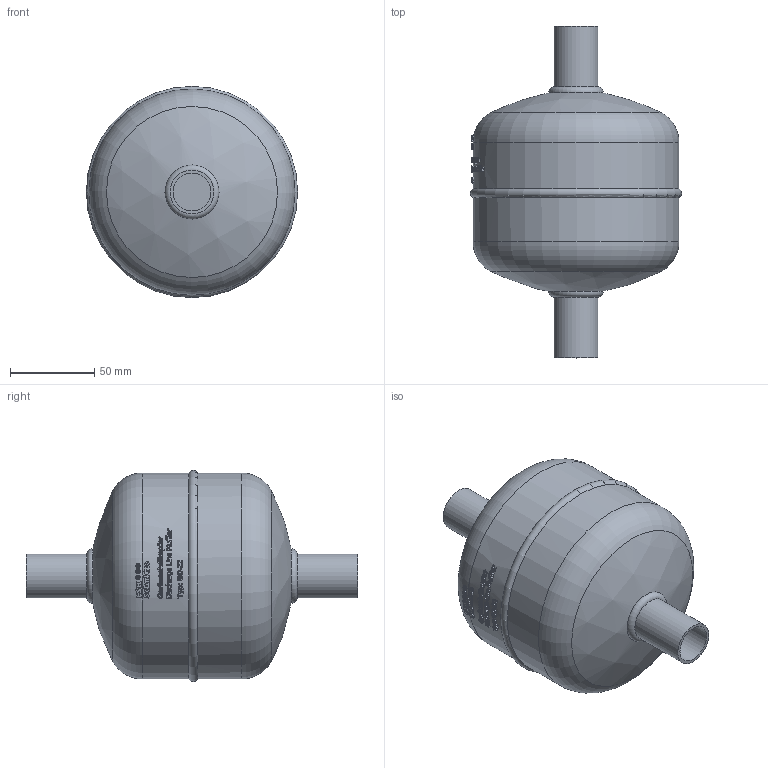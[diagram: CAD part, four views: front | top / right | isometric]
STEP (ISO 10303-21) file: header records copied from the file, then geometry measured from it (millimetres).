
FILE_DESCRIPTION(/* description */ (''),/* implementation_level */ '2;1');
FILE_NAME(/* name */ 'P:\GD\GD-22\GD-22.stp',/* time_stamp */ '2015-08-13T08:34:12+02:00',/* author */ ('neufeld'),/* organization */ (''),/* preprocessor_version */ 'ST-DEVELOPER v15.2',/* originating_system */ 'Autodesk Inventor 2014',/* authorisation */ '');
FILE_SCHEMA (('AUTOMOTIVE_DESIGN { 1 0 10303 214 3 1 1 }'));
Length unit declared in the file: millimetre
Products named in the file (1): GD-22_Rev.1_AG-Kunde
Bounding box: 125.11 x 196.6 x 125.11 mm (x, y, z)
Volume: 1198117.5 mm3; surface area: 65284.4 mm2
Topology: 1 solids, 1 shells, 1045 faces, 3524 edges, 3194 vertices
Faces by surface type: plane 569, bspline 379, cylinder 83, torus 12, sphere 2
Full cylindrical faces by diameter (mm): 22.4 x2, 26 x2, 122 x2
Entity records: 46970 total; most frequent: CARTESIAN_POINT 21494, ORIENTED_EDGE 5696, DIRECTION 3796, EDGE_CURVE 2848, VERTEX_POINT 1904, LINE 1610, VECTOR 1610, B_SPLINE_CURVE_WITH_KNOTS 1442
